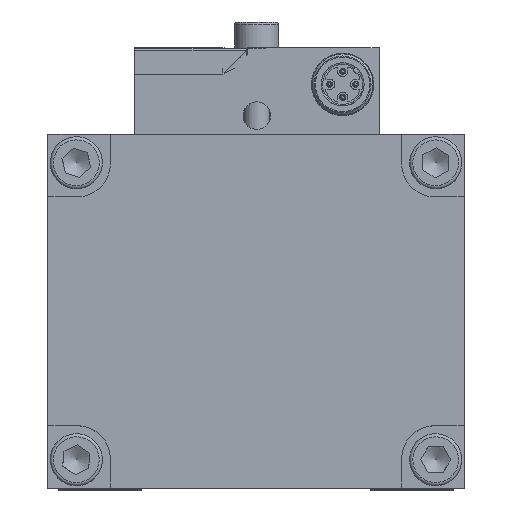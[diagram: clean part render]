
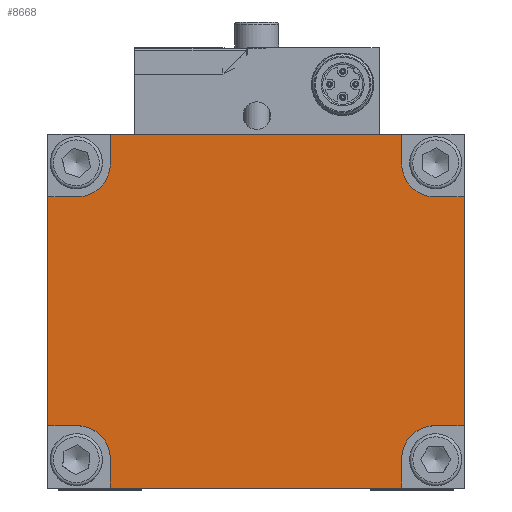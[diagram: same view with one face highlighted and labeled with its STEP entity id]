
A CAD part, top view. The second image highlights one B-rep face of the part: STEP entity #8668.
In plain terms, the highlighted planar face has unit normal (0, 0, 1).
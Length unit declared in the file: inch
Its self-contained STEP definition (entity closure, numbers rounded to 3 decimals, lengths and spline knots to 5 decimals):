
#381=PLANE('',#9521);
#750=FACE_OUTER_BOUND('',#1235,.T.);
#1235=EDGE_LOOP('',(#7049,#7050,#7051,#7052,#7053,#7054,#7055,#7056,#7057,
#7058,#7059,#7060,#7061,#7062,#7063,#7064));
#1744=CIRCLE('',#9459,0.25);
#1746=CIRCLE('',#9464,0.25);
#1748=CIRCLE('',#9470,0.25);
#1750=CIRCLE('',#9475,0.25);
#2266=LINE('',#14207,#2895);
#2275=LINE('',#14230,#2904);
#2280=LINE('',#14326,#2909);
#2286=LINE('',#14336,#2915);
#2290=LINE('',#14346,#2919);
#2292=LINE('',#14351,#2921);
#2296=LINE('',#14363,#2925);
#2302=LINE('',#14372,#2931);
#2304=LINE('',#14377,#2933);
#2308=LINE('',#14387,#2937);
#2310=LINE('',#14392,#2939);
#2314=LINE('',#14402,#2943);
#2895=VECTOR('',#11390,0.3937);
#2904=VECTOR('',#11405,0.3937);
#2909=VECTOR('',#11430,0.3937);
#2915=VECTOR('',#11438,0.3937);
#2919=VECTOR('',#11450,0.3937);
#2921=VECTOR('',#11454,0.3937);
#2925=VECTOR('',#11466,0.3937);
#2931=VECTOR('',#11474,0.3937);
#2933=VECTOR('',#11478,0.3937);
#2937=VECTOR('',#11490,0.3937);
#2939=VECTOR('',#11494,0.3937);
#2943=VECTOR('',#11506,0.3937);
#3734=VERTEX_POINT('',#14190);
#3742=VERTEX_POINT('',#14205);
#3745=VERTEX_POINT('',#14213);
#3753=VERTEX_POINT('',#14228);
#3763=VERTEX_POINT('',#14323);
#3764=VERTEX_POINT('',#14325);
#3767=VERTEX_POINT('',#14335);
#3769=VERTEX_POINT('',#14341);
#3771=VERTEX_POINT('',#14350);
#3773=VERTEX_POINT('',#14356);
#3775=VERTEX_POINT('',#14362);
#3776=VERTEX_POINT('',#14366);
#3779=VERTEX_POINT('',#14376);
#3781=VERTEX_POINT('',#14382);
#3783=VERTEX_POINT('',#14391);
#3785=VERTEX_POINT('',#14397);
#4837=EDGE_CURVE('',#3742,#3734,#2266,.T.);
#4848=EDGE_CURVE('',#3753,#3745,#2275,.T.);
#4865=EDGE_CURVE('',#3763,#3764,#2280,.T.);
#4871=EDGE_CURVE('',#3767,#3764,#2286,.T.);
#4874=EDGE_CURVE('',#3769,#3767,#1744,.T.);
#4877=EDGE_CURVE('',#3753,#3769,#2290,.T.);
#4879=EDGE_CURVE('',#3771,#3745,#2292,.T.);
#4882=EDGE_CURVE('',#3773,#3771,#1746,.T.);
#4885=EDGE_CURVE('',#3775,#3773,#2296,.T.);
#4891=EDGE_CURVE('',#3775,#3776,#2302,.T.);
#4893=EDGE_CURVE('',#3779,#3776,#2304,.T.);
#4896=EDGE_CURVE('',#3781,#3779,#1748,.T.);
#4899=EDGE_CURVE('',#3742,#3781,#2308,.T.);
#4901=EDGE_CURVE('',#3783,#3734,#2310,.T.);
#4904=EDGE_CURVE('',#3785,#3783,#1750,.T.);
#4907=EDGE_CURVE('',#3763,#3785,#2314,.T.);
#7049=ORIENTED_EDGE('',*,*,#4907,.T.);
#7050=ORIENTED_EDGE('',*,*,#4904,.T.);
#7051=ORIENTED_EDGE('',*,*,#4901,.T.);
#7052=ORIENTED_EDGE('',*,*,#4837,.F.);
#7053=ORIENTED_EDGE('',*,*,#4899,.T.);
#7054=ORIENTED_EDGE('',*,*,#4896,.T.);
#7055=ORIENTED_EDGE('',*,*,#4893,.T.);
#7056=ORIENTED_EDGE('',*,*,#4891,.F.);
#7057=ORIENTED_EDGE('',*,*,#4885,.T.);
#7058=ORIENTED_EDGE('',*,*,#4882,.T.);
#7059=ORIENTED_EDGE('',*,*,#4879,.T.);
#7060=ORIENTED_EDGE('',*,*,#4848,.F.);
#7061=ORIENTED_EDGE('',*,*,#4877,.T.);
#7062=ORIENTED_EDGE('',*,*,#4874,.T.);
#7063=ORIENTED_EDGE('',*,*,#4871,.T.);
#7064=ORIENTED_EDGE('',*,*,#4865,.F.);
#8668=ADVANCED_FACE('',(#750),#381,.T.);
#9459=AXIS2_PLACEMENT_3D('',#14342,#11444,#11445);
#9464=AXIS2_PLACEMENT_3D('',#14357,#11460,#11461);
#9470=AXIS2_PLACEMENT_3D('',#14383,#11484,#11485);
#9475=AXIS2_PLACEMENT_3D('',#14398,#11500,#11501);
#9521=AXIS2_PLACEMENT_3D('',#14516,#11628,#11629);
#11390=DIRECTION('',(0.,-1.,0.));
#11405=DIRECTION('',(0.,1.,0.));
#11430=DIRECTION('',(-1.,0.,0.));
#11438=DIRECTION('',(0.,-1.,0.));
#11444=DIRECTION('center_axis',(0.,0.,-1.));
#11445=DIRECTION('ref_axis',(1.,0.,0.));
#11450=DIRECTION('',(1.,0.,0.));
#11454=DIRECTION('',(-1.,0.,0.));
#11460=DIRECTION('center_axis',(0.,0.,-1.));
#11461=DIRECTION('ref_axis',(0.,-1.,0.));
#11466=DIRECTION('',(0.,-1.,0.));
#11474=DIRECTION('',(1.,0.,0.));
#11478=DIRECTION('',(0.,1.,0.));
#11484=DIRECTION('center_axis',(0.,0.,-1.));
#11485=DIRECTION('ref_axis',(-1.,0.,0.));
#11490=DIRECTION('',(-1.,0.,0.));
#11494=DIRECTION('',(1.,0.,0.));
#11500=DIRECTION('center_axis',(0.,0.,-1.));
#11501=DIRECTION('ref_axis',(0.,1.,0.));
#11506=DIRECTION('',(0.,1.,0.));
#11628=DIRECTION('center_axis',(0.,0.,1.));
#11629=DIRECTION('ref_axis',(1.,0.,0.));
#14190=CARTESIAN_POINT('',(1.575,-1.1023,5.97405));
#14205=CARTESIAN_POINT('',(1.575,0.62982,5.97405));
#14207=CARTESIAN_POINT('',(1.575,1.10226,5.97405));
#14213=CARTESIAN_POINT('',(-1.575,0.62982,5.97405));
#14228=CARTESIAN_POINT('',(-1.575,-1.1023,5.97405));
#14230=CARTESIAN_POINT('',(-1.575,-1.57474,5.97405));
#14323=CARTESIAN_POINT('',(1.10256,-1.57474,5.97405));
#14325=CARTESIAN_POINT('',(-1.10256,-1.57474,5.97405));
#14326=CARTESIAN_POINT('',(1.575,-1.57474,5.97405));
#14335=CARTESIAN_POINT('',(-1.10256,-1.3523,5.97405));
#14336=CARTESIAN_POINT('',(-1.10256,-0.90549,5.97405));
#14341=CARTESIAN_POINT('',(-1.35256,-1.1023,5.97405));
#14342=CARTESIAN_POINT('Origin',(-1.35256,-1.3523,5.97405));
#14346=CARTESIAN_POINT('',(-0.67628,-1.1023,5.97405));
#14350=CARTESIAN_POINT('',(-1.35256,0.62982,5.97405));
#14351=CARTESIAN_POINT('',(-0.7875,0.62982,5.97405));
#14356=CARTESIAN_POINT('',(-1.10256,0.87982,5.97405));
#14357=CARTESIAN_POINT('Origin',(-1.35256,0.87982,5.97405));
#14362=CARTESIAN_POINT('',(-1.10256,1.10226,5.97405));
#14363=CARTESIAN_POINT('',(-1.10256,0.32179,5.97405));
#14366=CARTESIAN_POINT('',(1.10256,1.10226,5.97405));
#14372=CARTESIAN_POINT('',(-1.575,1.10226,5.97405));
#14376=CARTESIAN_POINT('',(1.10256,0.87982,5.97405));
#14377=CARTESIAN_POINT('',(1.10256,0.43301,5.97405));
#14382=CARTESIAN_POINT('',(1.35256,0.62982,5.97405));
#14383=CARTESIAN_POINT('Origin',(1.35256,0.87982,5.97405));
#14387=CARTESIAN_POINT('',(0.67628,0.62982,5.97405));
#14391=CARTESIAN_POINT('',(1.35256,-1.1023,5.97405));
#14392=CARTESIAN_POINT('',(0.7875,-1.1023,5.97405));
#14397=CARTESIAN_POINT('',(1.10256,-1.3523,5.97405));
#14398=CARTESIAN_POINT('Origin',(1.35256,-1.3523,5.97405));
#14402=CARTESIAN_POINT('',(1.10256,-0.79427,5.97405));
#14516=CARTESIAN_POINT('Origin',(0.,-0.23624,
5.97405));
